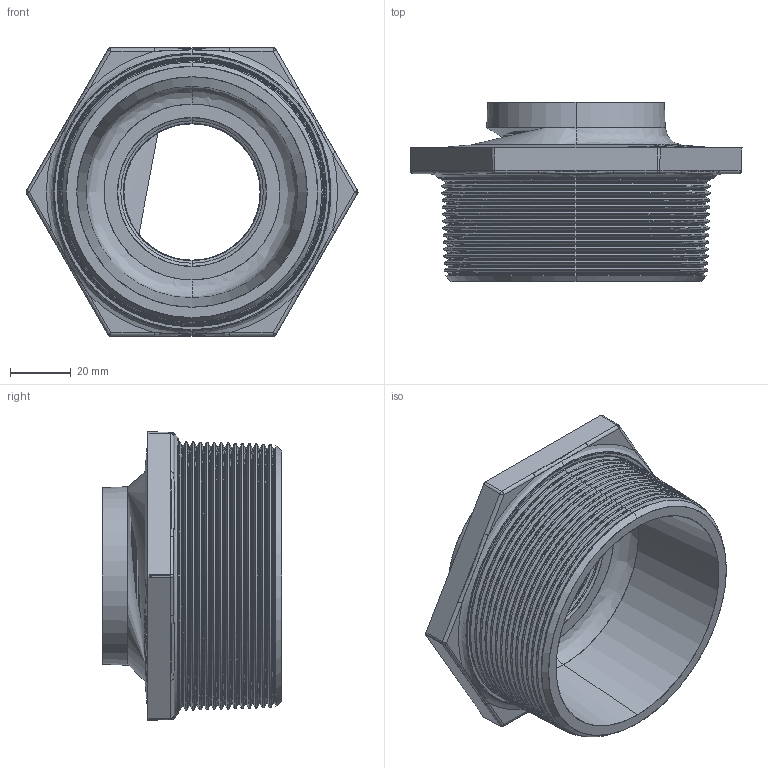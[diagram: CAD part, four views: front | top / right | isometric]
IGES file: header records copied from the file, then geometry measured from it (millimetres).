
Start section: SolidWorks IGES file using analytic representation for surfaces
Global section: file name: C:\Users\Joel Rosa\Desktop\Tubulação\12-01-OK\12-01-054.IGS; native system: SolidWorks 2011; preprocessor: SolidWorks 2011; author: Joel Rosa; date: 121203.202345; units: millimetre
Bounding box: 109.39 x 59 x 95 mm (x, y, z)
Surface area: 44133.4 mm2 (no closed solid volume)
Topology: 0 solids, 0 shells, 436 faces, 4212 edges, 4209 vertices
Faces by surface type: bspline 289, revolution 147
